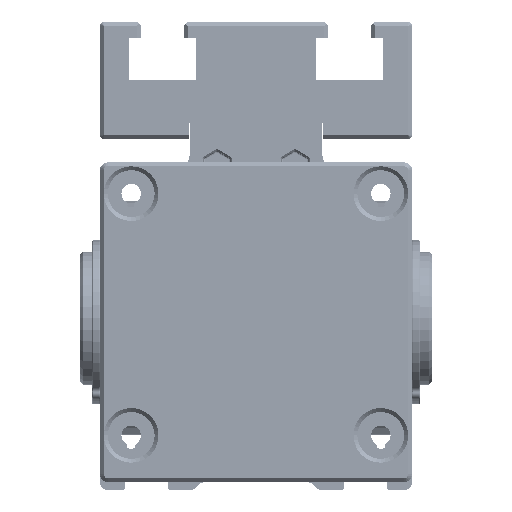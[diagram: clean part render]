
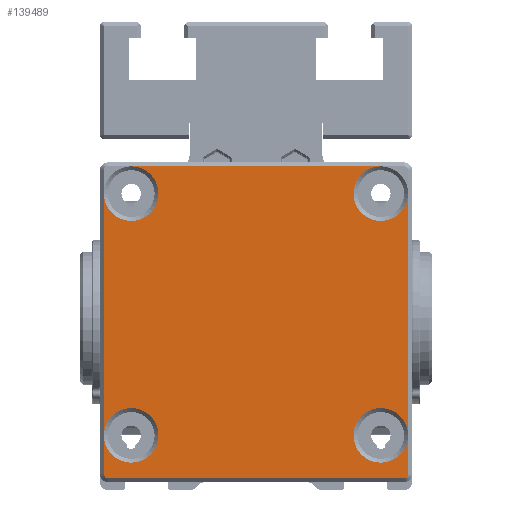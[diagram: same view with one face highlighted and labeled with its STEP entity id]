
A CAD part, front view. The second image highlights one B-rep face of the part: STEP entity #139489.
In plain terms, the highlighted planar face has unit normal (0, -1, 0) as drawn and (0, 0, 1) by its records, which use the part's own axes.
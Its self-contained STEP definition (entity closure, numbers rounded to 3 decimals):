
#869 = DIRECTION ( 'NONE',  ( 0., 1., 0. ) ) ;
#2249 = AXIS2_PLACEMENT_3D ( 'NONE', #145985, #134100, #145198 ) ;
#3570 = AXIS2_PLACEMENT_3D ( 'NONE', #86607, #26092, #74697 ) ;
#3975 = DIRECTION ( 'NONE',  ( 1., 0., 0. ) ) ;
#6680 = CARTESIAN_POINT ( 'NONE',  ( -19., 1.5, 346. ) ) ;
#9823 = VERTEX_POINT ( 'NONE', #54935 ) ;
#10171 = PLANE ( 'NONE',  #30211 ) ;
#10360 = ORIENTED_EDGE ( 'NONE', *, *, #73349, .F. ) ;
#10455 = ORIENTED_EDGE ( 'NONE', *, *, #109116, .F. ) ;
#10876 = VECTOR ( 'NONE', #869, 1000. ) ;
#14908 = ORIENTED_EDGE ( 'NONE', *, *, #105984, .F. ) ;
#15037 = DIRECTION ( 'NONE',  ( 0., 0., 1. ) ) ;
#17729 = ORIENTED_EDGE ( 'NONE', *, *, #51305, .F. ) ;
#20019 = CARTESIAN_POINT ( 'NONE',  ( 0., 41.5, 346. ) ) ;
#20141 = CIRCLE ( 'NONE', #93748, 0.5 ) ;
#21113 = CARTESIAN_POINT ( 'NONE',  ( -19.5, 22.5, 346. ) ) ;
#21834 = DIRECTION ( 'NONE',  ( 0., 1., 0. ) ) ;
#23227 = DIRECTION ( 'NONE',  ( 1., 0., 0. ) ) ;
#26024 = CARTESIAN_POINT ( 'NONE',  ( -12.5, 7., 346. ) ) ;
#26092 = DIRECTION ( 'NONE',  ( 0., 0., 1. ) ) ;
#26553 = CARTESIAN_POINT ( 'NONE',  ( 19.5, 22.5, 346. ) ) ;
#27114 = ORIENTED_EDGE ( 'NONE', *, *, #101464, .T. ) ;
#27450 = VERTEX_POINT ( 'NONE', #145914 ) ;
#30205 = ORIENTED_EDGE ( 'NONE', *, *, #41683, .F. ) ;
#30211 = AXIS2_PLACEMENT_3D ( 'NONE', #146823, #51456, #111203 ) ;
#31259 = CARTESIAN_POINT ( 'NONE',  ( 19., 1.5, 346. ) ) ;
#32795 = CARTESIAN_POINT ( 'NONE',  ( -16., 38., 346. ) ) ;
#33210 = VECTOR ( 'NONE', #115605, 1000. ) ;
#33395 = DIRECTION ( 'NONE',  ( 0., 0., 1. ) ) ;
#37590 = ORIENTED_EDGE ( 'NONE', *, *, #46309, .F. ) ;
#40605 = VERTEX_POINT ( 'NONE', #101699 ) ;
#41396 = VERTEX_POINT ( 'NONE', #126317 ) ;
#41683 = EDGE_CURVE ( 'NONE', #27450, #114402, #68977, .T. ) ;
#41854 = DIRECTION ( 'NONE',  ( 1., 0., 0. ) ) ;
#43084 = LINE ( 'NONE', #20019, #33210 ) ;
#43091 = EDGE_CURVE ( 'NONE', #114402, #27450, #97486, .T. ) ;
#43430 = CIRCLE ( 'NONE', #119688, 3.5 ) ;
#45826 = CARTESIAN_POINT ( 'NONE',  ( -19.5, 2., 346. ) ) ;
#46309 = EDGE_CURVE ( 'NONE', #40605, #87236, #43084, .T. ) ;
#47513 = DIRECTION ( 'NONE',  ( -1., 0., 0. ) ) ;
#47823 = VECTOR ( 'NONE', #156917, 1000. ) ;
#50472 = AXIS2_PLACEMENT_3D ( 'NONE', #144634, #33395, #83532 ) ;
#51305 = EDGE_CURVE ( 'NONE', #78059, #124087, #111085, .T. ) ;
#51456 = DIRECTION ( 'NONE',  ( 0., 0., 1. ) ) ;
#51715 = DIRECTION ( 'NONE',  ( 0., 0., 1. ) ) ;
#52495 = ORIENTED_EDGE ( 'NONE', *, *, #153211, .F. ) ;
#52939 = EDGE_CURVE ( 'NONE', #27450, #104014, #108650, .T. ) ;
#54935 = CARTESIAN_POINT ( 'NONE',  ( 12.5, 38., 346. ) ) ;
#55818 = DIRECTION ( 'NONE',  ( 1., 0., 0. ) ) ;
#56720 = CARTESIAN_POINT ( 'NONE',  ( -12.5, 38., 346. ) ) ;
#58660 = VERTEX_POINT ( 'NONE', #31259 ) ;
#60937 = VERTEX_POINT ( 'NONE', #109151 ) ;
#62486 = AXIS2_PLACEMENT_3D ( 'NONE', #85332, #15037, #145684 ) ;
#66267 = VERTEX_POINT ( 'NONE', #6680 ) ;
#67306 = DIRECTION ( 'NONE',  ( 0., 1., 0. ) ) ;
#67566 = ORIENTED_EDGE ( 'NONE', *, *, #135828, .F. ) ;
#68294 = CIRCLE ( 'NONE', #2249, 0.5 ) ;
#68586 = ORIENTED_EDGE ( 'NONE', *, *, #92906, .T. ) ;
#68977 = CIRCLE ( 'NONE', #150179, 3.5 ) ;
#69117 = EDGE_CURVE ( 'NONE', #60937, #131210, #123432, .T. ) ;
#70497 = ORIENTED_EDGE ( 'NONE', *, *, #139408, .F. ) ;
#72034 = DIRECTION ( 'NONE',  ( 0., 0., 1. ) ) ;
#73349 = EDGE_CURVE ( 'NONE', #131210, #40605, #43430, .T. ) ;
#73412 = CIRCLE ( 'NONE', #91097, 3.5 ) ;
#74697 = DIRECTION ( 'NONE',  ( 1., 0., 0. ) ) ;
#75486 = AXIS2_PLACEMENT_3D ( 'NONE', #125618, #51715, #3975 ) ;
#77231 = VERTEX_POINT ( 'NONE', #45826 ) ;
#77745 = LINE ( 'NONE', #128548, #88753 ) ;
#78059 = VERTEX_POINT ( 'NONE', #26024 ) ;
#79931 = EDGE_CURVE ( 'NONE', #77231, #124087, #82830, .T. ) ;
#80973 = CARTESIAN_POINT ( 'NONE',  ( -19., 2., 346. ) ) ;
#81337 = DIRECTION ( 'NONE',  ( 1., 0., 0. ) ) ;
#82522 = VECTOR ( 'NONE', #67306, 1000. ) ;
#82830 = LINE ( 'NONE', #132897, #10876 ) ;
#83532 = DIRECTION ( 'NONE',  ( 1., 0., 0. ) ) ;
#83956 = CARTESIAN_POINT ( 'NONE',  ( -16., 7., 346. ) ) ;
#84741 = DIRECTION ( 'NONE',  ( 1., 0., 0. ) ) ;
#85332 = CARTESIAN_POINT ( 'NONE',  ( -16., 38., 346. ) ) ;
#86464 = AXIS2_PLACEMENT_3D ( 'NONE', #140903, #141682, #81337 ) ;
#86607 = CARTESIAN_POINT ( 'NONE',  ( 16., 7., 346. ) ) ;
#87236 = VERTEX_POINT ( 'NONE', #100429 ) ;
#88753 = VECTOR ( 'NONE', #41854, 1000. ) ;
#91097 = AXIS2_PLACEMENT_3D ( 'NONE', #83956, #72034, #84741 ) ;
#92906 = EDGE_CURVE ( 'NONE', #41396, #27450, #105417, .T. ) ;
#93596 = CIRCLE ( 'NONE', #50472, 3.5 ) ;
#93748 = AXIS2_PLACEMENT_3D ( 'NONE', #80973, #143685, #47513 ) ;
#93959 = DIRECTION ( 'NONE',  ( 0., 0., 1. ) ) ;
#94048 = DIRECTION ( 'NONE',  ( 0., 0., 1. ) ) ;
#97486 = CIRCLE ( 'NONE', #3570, 3.5 ) ;
#100429 = CARTESIAN_POINT ( 'NONE',  ( 16., 41.5, 346. ) ) ;
#101464 = EDGE_CURVE ( 'NONE', #66267, #58660, #77745, .T. ) ;
#101673 = CARTESIAN_POINT ( 'NONE',  ( 19.5, 38., 346. ) ) ;
#101699 = CARTESIAN_POINT ( 'NONE',  ( -16., 41.5, 346. ) ) ;
#104014 = VERTEX_POINT ( 'NONE', #101673 ) ;
#105417 = LINE ( 'NONE', #142672, #137378 ) ;
#105984 = EDGE_CURVE ( 'NONE', #124087, #60937, #106250, .T. ) ;
#106250 = LINE ( 'NONE', #21113, #82522 ) ;
#108650 = LINE ( 'NONE', #26553, #47823 ) ;
#109116 = EDGE_CURVE ( 'NONE', #41396, #58660, #68294, .T. ) ;
#109151 = CARTESIAN_POINT ( 'NONE',  ( -19.5, 38., 346. ) ) ;
#109479 = CIRCLE ( 'NONE', #86464, 3.5 ) ;
#109483 = ORIENTED_EDGE ( 'NONE', *, *, #69117, .F. ) ;
#111085 = CIRCLE ( 'NONE', #75486, 3.5 ) ;
#111203 = DIRECTION ( 'NONE',  ( 1., 0., 0. ) ) ;
#113321 = ORIENTED_EDGE ( 'NONE', *, *, #79931, .F. ) ;
#114402 = VERTEX_POINT ( 'NONE', #119971 ) ;
#115605 = DIRECTION ( 'NONE',  ( 1., 0., 0. ) ) ;
#119148 = FACE_OUTER_BOUND ( 'NONE', #135286, .T. ) ;
#119634 = ORIENTED_EDGE ( 'NONE', *, *, #152066, .F. ) ;
#119688 = AXIS2_PLACEMENT_3D ( 'NONE', #32795, #94048, #23227 ) ;
#119971 = CARTESIAN_POINT ( 'NONE',  ( 12.5, 7., 346. ) ) ;
#123432 = CIRCLE ( 'NONE', #62486, 3.5 ) ;
#124087 = VERTEX_POINT ( 'NONE', #125886 ) ;
#125618 = CARTESIAN_POINT ( 'NONE',  ( -16., 7., 346. ) ) ;
#125886 = CARTESIAN_POINT ( 'NONE',  ( -19.5, 7., 346. ) ) ;
#126317 = CARTESIAN_POINT ( 'NONE',  ( 19.5, 2., 346. ) ) ;
#128548 = CARTESIAN_POINT ( 'NONE',  ( 0., 1.5, 346. ) ) ;
#128815 = ORIENTED_EDGE ( 'NONE', *, *, #43091, .F. ) ;
#131210 = VERTEX_POINT ( 'NONE', #56720 ) ;
#132897 = CARTESIAN_POINT ( 'NONE',  ( -19.5, 4.5, 346. ) ) ;
#134100 = DIRECTION ( 'NONE',  ( 0., 0., -1. ) ) ;
#135286 = EDGE_LOOP ( 'NONE', ( #14908, #17729, #67566, #113321, #70497, #27114, #10455, #68586, #128815, #30205, #142259, #52495, #119634, #37590, #10360, #109483 ) ) ;
#135828 = EDGE_CURVE ( 'NONE', #124087, #78059, #73412, .T. ) ;
#137378 = VECTOR ( 'NONE', #21834, 1000. ) ;
#139408 = EDGE_CURVE ( 'NONE', #66267, #77231, #20141, .T. ) ;
#139489 = ADVANCED_FACE ( 'NONE', ( #119148 ), #10171, .T. ) ;
#140903 = CARTESIAN_POINT ( 'NONE',  ( 16., 38., 346. ) ) ;
#141682 = DIRECTION ( 'NONE',  ( 0., 0., 1. ) ) ;
#142259 = ORIENTED_EDGE ( 'NONE', *, *, #52939, .T. ) ;
#142395 = CARTESIAN_POINT ( 'NONE',  ( 16., 7., 346. ) ) ;
#142672 = CARTESIAN_POINT ( 'NONE',  ( 19.5, 4.5, 346. ) ) ;
#143685 = DIRECTION ( 'NONE',  ( 0., 0., -1. ) ) ;
#144634 = CARTESIAN_POINT ( 'NONE',  ( 16., 38., 346. ) ) ;
#145198 = DIRECTION ( 'NONE',  ( -1., 0., 0. ) ) ;
#145684 = DIRECTION ( 'NONE',  ( 1., 0., 0. ) ) ;
#145914 = CARTESIAN_POINT ( 'NONE',  ( 19.5, 7., 346. ) ) ;
#145985 = CARTESIAN_POINT ( 'NONE',  ( 19., 2., 346. ) ) ;
#146823 = CARTESIAN_POINT ( 'NONE',  ( 0., 1., 346. ) ) ;
#150179 = AXIS2_PLACEMENT_3D ( 'NONE', #142395, #93959, #55818 ) ;
#152066 = EDGE_CURVE ( 'NONE', #87236, #9823, #93596, .T. ) ;
#153211 = EDGE_CURVE ( 'NONE', #9823, #104014, #109479, .T. ) ;
#156917 = DIRECTION ( 'NONE',  ( 0., 1., 0. ) ) ;
